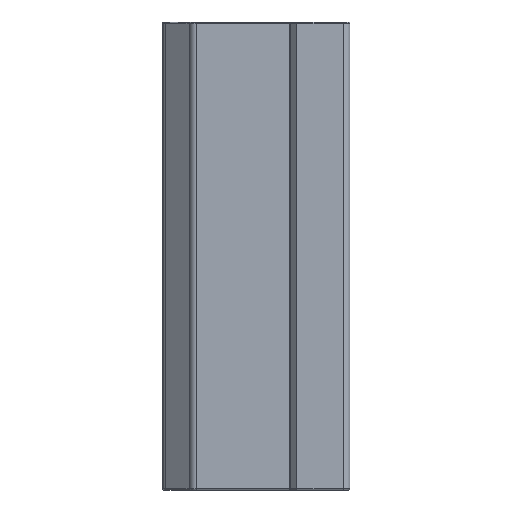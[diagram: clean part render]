
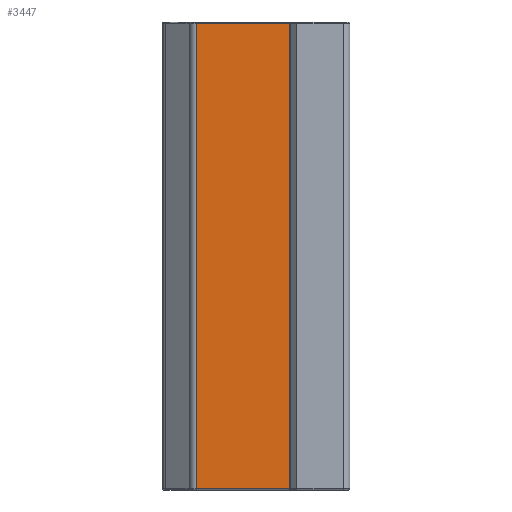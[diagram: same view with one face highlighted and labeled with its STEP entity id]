
A CAD part, left-side view. The second image highlights one B-rep face of the part: STEP entity #3447.
In plain terms, the highlighted planar face has unit normal (-1, 0, 0).
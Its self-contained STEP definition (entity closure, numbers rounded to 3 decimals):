
#41 = CARTESIAN_POINT ( 'NONE',  ( -20., 8.55, 0.15 ) ) ;
#352 = ORIENTED_EDGE ( 'NONE', *, *, #9834, .T. ) ;
#580 = ORIENTED_EDGE ( 'NONE', *, *, #6456, .T. ) ;
#1021 = VECTOR ( 'NONE', #13607, 1000. ) ;
#3404 = PLANE ( 'NONE',  #7092 ) ;
#3447 = ADVANCED_FACE ( 'NONE', ( #12186 ), #3404, .F. ) ;
#5587 = CARTESIAN_POINT ( 'NONE',  ( -20., -5.388, 69.85 ) ) ;
#5783 = EDGE_CURVE ( 'NONE', #14945, #13536, #15747, .T. ) ;
#6456 = EDGE_CURVE ( 'NONE', #12221, #14945, #12474, .T. ) ;
#6865 = CARTESIAN_POINT ( 'NONE',  ( -20., -5.45, 70. ) ) ;
#7092 = AXIS2_PLACEMENT_3D ( 'NONE', #6865, #11365, #13057 ) ;
#7251 = DIRECTION ( 'NONE',  ( 0., 1., 0. ) ) ;
#7555 = CARTESIAN_POINT ( 'NONE',  ( -20., 8.55, 69.85 ) ) ;
#7713 = DIRECTION ( 'NONE',  ( 0., 0., -1. ) ) ;
#8069 = VECTOR ( 'NONE', #7713, 1000. ) ;
#8214 = DIRECTION ( 'NONE',  ( 0., -1., 0. ) ) ;
#8637 = ORIENTED_EDGE ( 'NONE', *, *, #5783, .T. ) ;
#8666 = CARTESIAN_POINT ( 'NONE',  ( -20., -5.388, 70. ) ) ;
#8939 = EDGE_LOOP ( 'NONE', ( #580, #8637, #352, #11799 ) ) ;
#9183 = VECTOR ( 'NONE', #7251, 1000. ) ;
#9834 = EDGE_CURVE ( 'NONE', #13536, #11421, #14298, .T. ) ;
#9911 = CARTESIAN_POINT ( 'NONE',  ( -20., -5.45, 0.15 ) ) ;
#10432 = LINE ( 'NONE', #8666, #1021 ) ;
#11365 = DIRECTION ( 'NONE',  ( 1., 0., 0. ) ) ;
#11421 = VERTEX_POINT ( 'NONE', #11747 ) ;
#11747 = CARTESIAN_POINT ( 'NONE',  ( -20., -5.388, 0.15 ) ) ;
#11799 = ORIENTED_EDGE ( 'NONE', *, *, #13330, .T. ) ;
#12186 = FACE_OUTER_BOUND ( 'NONE', #8939, .T. ) ;
#12221 = VERTEX_POINT ( 'NONE', #5587 ) ;
#12474 = LINE ( 'NONE', #15884, #9183 ) ;
#13057 = DIRECTION ( 'NONE',  ( 0., 0., -1. ) ) ;
#13330 = EDGE_CURVE ( 'NONE', #11421, #12221, #10432, .T. ) ;
#13536 = VERTEX_POINT ( 'NONE', #41 ) ;
#13607 = DIRECTION ( 'NONE',  ( 0., 0., 1. ) ) ;
#14298 = LINE ( 'NONE', #9911, #15072 ) ;
#14917 = CARTESIAN_POINT ( 'NONE',  ( -20., 8.55, 70. ) ) ;
#14945 = VERTEX_POINT ( 'NONE', #7555 ) ;
#15072 = VECTOR ( 'NONE', #8214, 1000. ) ;
#15747 = LINE ( 'NONE', #14917, #8069 ) ;
#15884 = CARTESIAN_POINT ( 'NONE',  ( -20., -5.45, 69.85 ) ) ;
